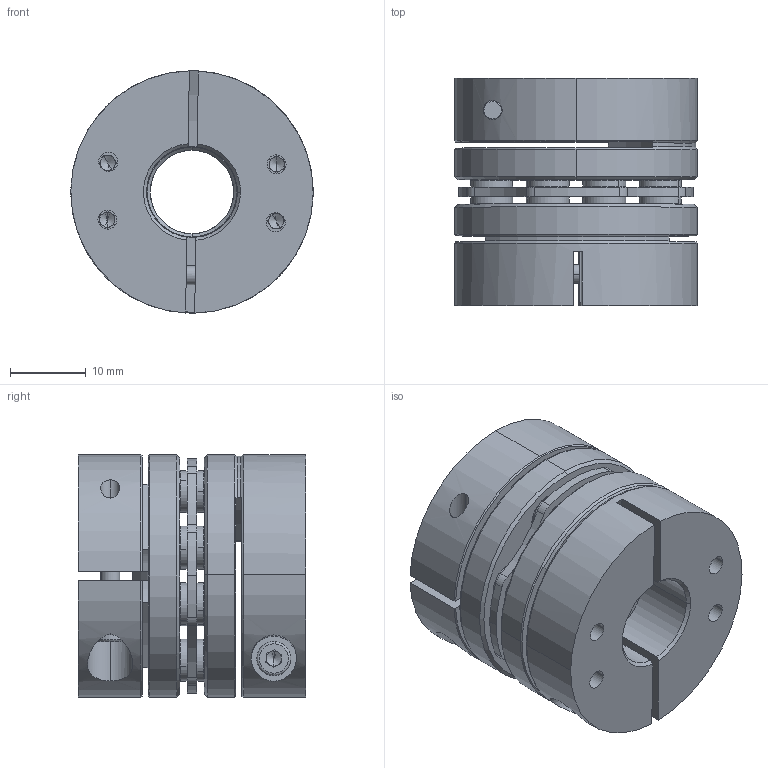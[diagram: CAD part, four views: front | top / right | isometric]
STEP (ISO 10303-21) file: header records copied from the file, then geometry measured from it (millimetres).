
FILE_DESCRIPTION (( 'STEP AP203' ), '1' );
FILE_NAME ('LDG-32-B1-11-12.STEP', '2021-10-28T05:16:41', ( '' ), ( '' ), 'SwSTEP 2.0', 'SolidWorks 2018', '' );
FILE_SCHEMA (( 'CONFIG_CONTROL_DESIGN' ));
Length unit declared in the file: millimetre
Products named in the file (2): 錨璃5^LDG-32蚾饜芞1; LDG-32-B1-11-12
Assembly tree (1 placements, depth 2):
  LDG-32-B1-11-12
    錨璃5^LDG-32蚾饜芞1
Bounding box: 32 x 30 x 32 mm (x, y, z)
Volume: 17235 mm3; surface area: 13102.7 mm2
Topology: 1 solids, 11 shells, 795 faces, 1967 edges, 1216 vertices
Faces by surface type: cylinder 301, plane 244, cone 230, torus 20
Entity records: 24191 total; most frequent: CARTESIAN_POINT 4472, DIRECTION 4465, ORIENTED_EDGE 3878, EDGE_CURVE 1939, AXIS2_PLACEMENT_3D 1819, VERTEX_POINT 1216, CIRCLE 1020, EDGE_LOOP 939
